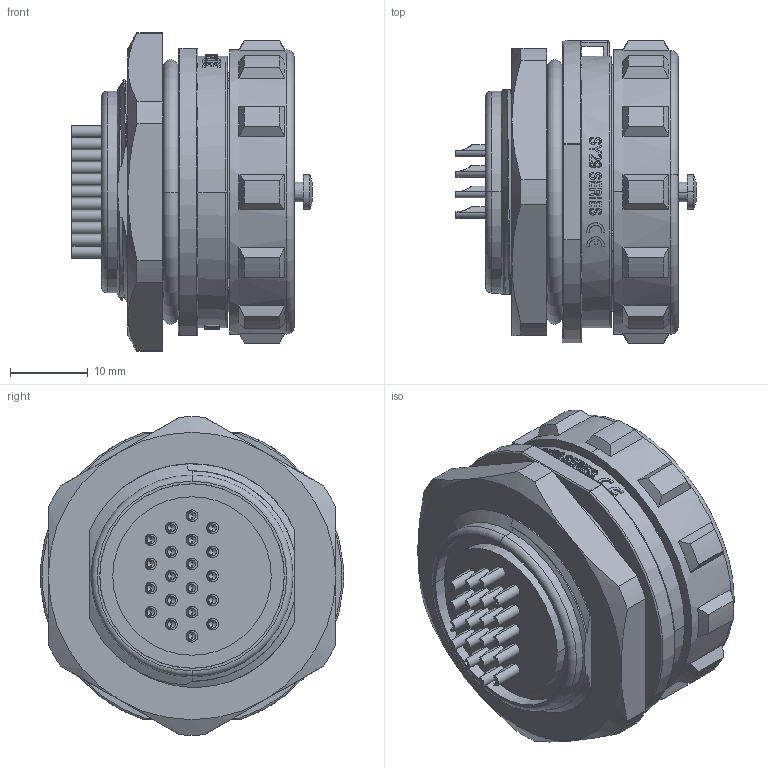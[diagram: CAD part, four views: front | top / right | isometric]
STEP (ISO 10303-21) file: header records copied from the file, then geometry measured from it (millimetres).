
FILE_DESCRIPTION((''),'2;1');
FILE_NAME('PRT0001','2021-03-22T',('Administrator'),(''),'CREO PARAMETRIC BY PTC INC, 2016130','CREO PARAMETRIC BY PTC INC, 2016130','');
FILE_SCHEMA(('AUTOMOTIVE_DESIGN { 1 0 10303 214 1 1 1 1 }'));
Length unit declared in the file: millimetre
Products named in the file (1): PRT0001
Bounding box: 30.9 x 38.99 x 40.99 mm (x, y, z)
Volume: 21262.4 mm3; surface area: 11827.1 mm2
Topology: 2 solids, 3 shells, 853 faces, 2148 edges, 1342 vertices
Faces by surface type: plane 265, cylinder 250, extrusion 157, cone 133, bspline 19, torus 17, sphere 12
Entity records: 29399 total; most frequent: CARTESIAN_POINT 9590, ORIENTED_EDGE 4216, DIRECTION 3794, EDGE_CURVE 2108, AXIS2_PLACEMENT_3D 1358, VERTEX_POINT 1342, VECTOR 1078, EDGE_LOOP 942
